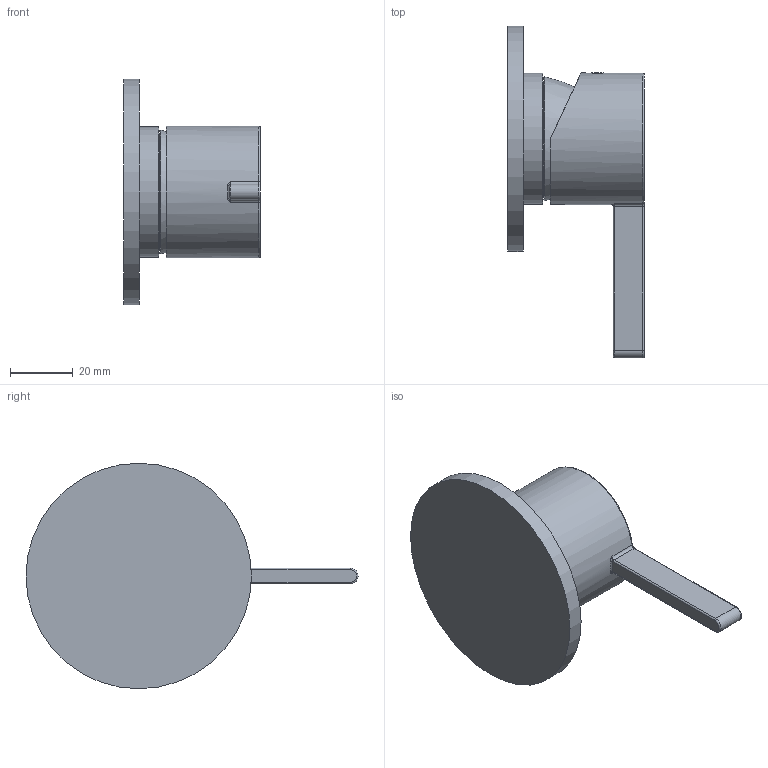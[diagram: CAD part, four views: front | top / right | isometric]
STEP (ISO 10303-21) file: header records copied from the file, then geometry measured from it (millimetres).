
FILE_DESCRIPTION(/* description */ (''),/* implementation_level */ '2;1');
FILE_NAME(/* name */ '3D_TVS106002000_Dawn Kartuschenabdeckung entfernen.step',/* time_stamp */ '2023-02-23T14:05:13+01:00',/* author */ (''),/* organization */ (''),/* preprocessor_version */ 'ST-DEVELOPER v19.2',/* originating_system */ 'Autodesk Translation Framework v11.17.0.187',/* authorisation */ '');
FILE_SCHEMA (('AUTOMOTIVE_DESIGN { 1 0 10303 214 3 1 1 }'));
Length unit declared in the file: millimetre
Products named in the file (7): (Nicht gespeichert); 300023VEB0_ASM; 10000076; 16002399_ASM; 03000256; 05000004; Komponente6
Assembly tree (6 placements, depth 3):
  (Nicht gespeichert)
    300023VEB0_ASM
      10000076
    16002399_ASM
      03000256
      05000004
    Komponente6
Bounding box: 43.7 x 106 x 72 mm (x, y, z)
Volume: 57913 mm3; surface area: 29171.9 mm2
Topology: 5 solids, 5 shells, 185 faces, 413 edges, 239 vertices
Faces by surface type: plane 50, bspline 43, cylinder 38, torus 30, sphere 19, cone 5
Full cylindrical faces by diameter (mm): 3.9 x1, 35 x1, 41.8 x1, 42 x1, 72 x1
Entity records: 7714 total; most frequent: CARTESIAN_POINT 3556, DIRECTION 904, ORIENTED_EDGE 824, EDGE_CURVE 412, AXIS2_PLACEMENT_3D 397, VERTEX_POINT 239, CIRCLE 235, EDGE_LOOP 187
